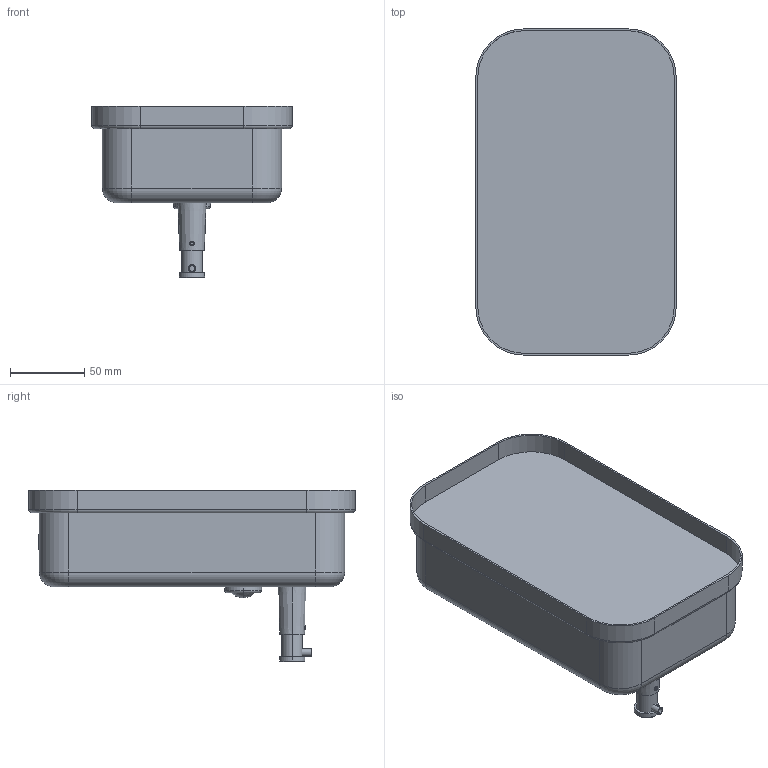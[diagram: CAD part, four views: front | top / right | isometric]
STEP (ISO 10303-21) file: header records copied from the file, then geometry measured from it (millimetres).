
FILE_DESCRIPTION (( 'STEP AP203' ), '1' );
FILE_NAME ('MA.LS71002.STEP', '2022-08-01T13:18:30', ( '' ), ( '' ), 'SwSTEP 2.0', 'SolidWorks 2021', '' );
FILE_SCHEMA (( 'CONFIG_CONTROL_DESIGN' ));
Length unit declared in the file: millimetre
Products named in the file (1): MA.LS71002
Bounding box: 135 x 220 x 115.37 mm (x, y, z)
Volume: 125908.2 mm3; surface area: 189791.2 mm2
Topology: 9 solids, 9 shells, 168 faces, 371 edges, 218 vertices
Faces by surface type: cylinder 68, plane 45, torus 30, sphere 20, cone 5
Entity records: 4724 total; most frequent: DIRECTION 897, CARTESIAN_POINT 872, ORIENTED_EDGE 710, AXIS2_PLACEMENT_3D 379, EDGE_CURVE 355, VERTEX_POINT 218, CIRCLE 210, EDGE_LOOP 183
